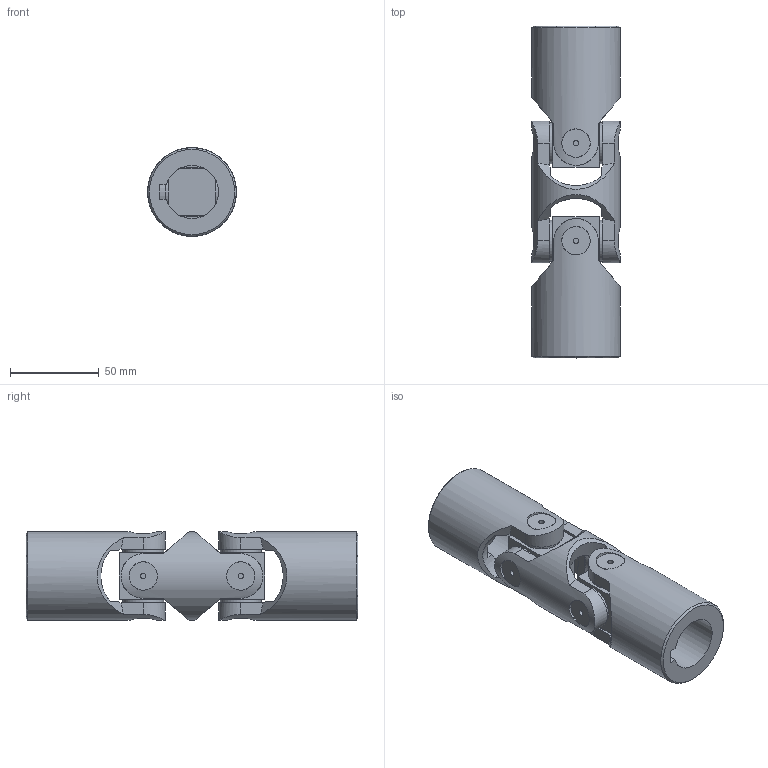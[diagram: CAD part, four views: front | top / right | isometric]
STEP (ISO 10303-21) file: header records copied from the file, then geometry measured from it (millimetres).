
FILE_DESCRIPTION(/* description */ (''),/* implementation_level */ '2;1');
FILE_NAME(/* name */ '\\SRV2016\Societa\Stefano\Disegni 3D\00Catalogo 3D\02Doppi GD-GBD\SGBD302C.stp',/* time_stamp */ '2021-11-23T15:42:06+01:00',/* author */ ('acquisti'),/* organization */ (''),/* preprocessor_version */ 'ST-DEVELOPER v15.6',/* originating_system */ 'Autodesk Inventor 2015',/* authorisation */ '');
FILE_SCHEMA (('AUTOMOTIVE_DESIGN { 1 0 10303 214 3 1 1 }'));
Length unit declared in the file: millimetre
Products named in the file (4): 5G MOD; 5G SFE; 6GB MOC; Ø50_6GBD-00_SGBD3000
Assembly tree (5 placements, depth 2):
  Ø50_6GBD-00_SGBD3000
    5G MOD
    5G SFE  x2
    6GB MOC  x2
Bounding box: 50 x 187 x 50 mm (x, y, z)
Volume: 223281.8 mm3; surface area: 58857.8 mm2
Topology: 5 solids, 5 shells, 147 faces, 363 edges, 246 vertices
Faces by surface type: plane 80, cylinder 43, cone 20, torus 4
Full cylindrical faces by diameter (mm): 3 x8, 16 x8, 23 x8, 28 x2, 50 x3
Entity records: 3548 total; most frequent: CARTESIAN_POINT 1306, ORIENTED_EDGE 440, DIRECTION 419, EDGE_CURVE 220, AXIS2_PLACEMENT_3D 182, VERTEX_POINT 166, EDGE_LOOP 142, FACE_OUTER_BOUND 99
